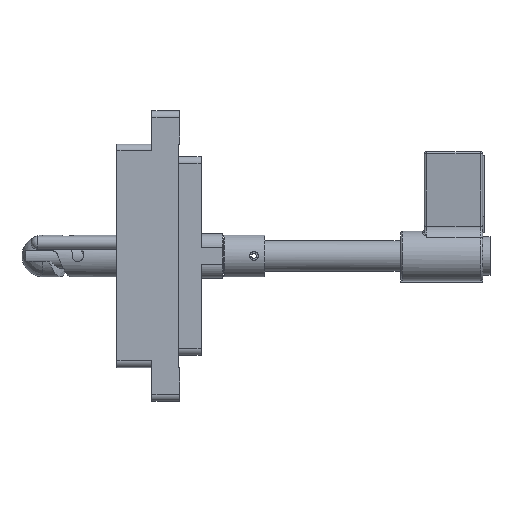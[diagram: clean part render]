
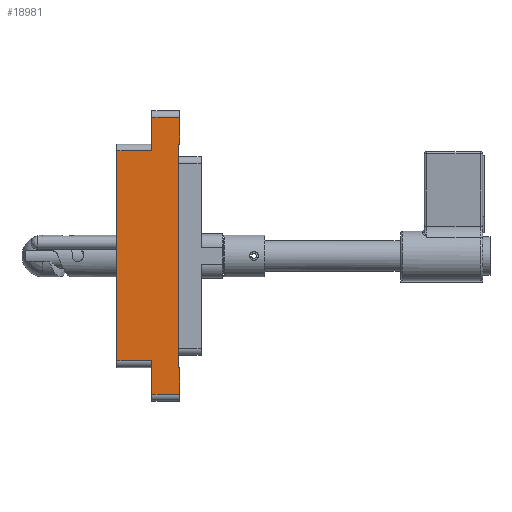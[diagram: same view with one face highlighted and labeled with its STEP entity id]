
A CAD part, top view. The second image highlights one B-rep face of the part: STEP entity #18981.
In plain terms, the highlighted planar face has unit normal (0, 0, 1).
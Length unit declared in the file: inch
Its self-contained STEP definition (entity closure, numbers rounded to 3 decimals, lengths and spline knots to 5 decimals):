
#8789=CARTESIAN_POINT('',(0.99999,0.299,0.128));
#8790=VERTEX_POINT('',#8789);
#8797=CARTESIAN_POINT('',(0.99999,0.05906,0.128));
#8798=VERTEX_POINT('',#8797);
#8799=CARTESIAN_POINT('',(0.99999,0.299,0.128));
#8800=DIRECTION('',(0.0,-1.0,0.0));
#8801=VECTOR('',#8800,0.23994);
#8802=LINE('',#8799,#8801);
#8803=EDGE_CURVE('',#8790,#8798,#8802,.T.);
#8926=CARTESIAN_POINT('',(0.99999,2.53294,0.128));
#8927=VERTEX_POINT('',#8926);
#8937=CARTESIAN_POINT('',(0.99999,2.293,0.128));
#8938=VERTEX_POINT('',#8937);
#8939=CARTESIAN_POINT('',(0.99999,2.53294,0.128));
#8940=DIRECTION('',(0.0,-1.0,0.0));
#8941=VECTOR('',#8940,0.23994);
#8942=LINE('',#8939,#8941);
#8943=EDGE_CURVE('',#8927,#8938,#8942,.T.);
#17777=CARTESIAN_POINT('',(0.43799,0.35806,0.128));
#17778=VERTEX_POINT('',#17777);
#17786=CARTESIAN_POINT('',(0.43799,2.23394,0.128));
#17787=VERTEX_POINT('',#17786);
#17788=CARTESIAN_POINT('',(0.43799,0.35806,0.128));
#17789=DIRECTION('',(0.0,1.0,0.0));
#17790=VECTOR('',#17789,1.87589);
#17791=LINE('',#17788,#17790);
#17792=EDGE_CURVE('',#17778,#17787,#17791,.T.);
#18823=CARTESIAN_POINT('',(0.74999,0.05906,0.128));
#18824=VERTEX_POINT('',#18823);
#18834=CARTESIAN_POINT('',(0.99999,0.05906,0.128));
#18835=DIRECTION('',(-1.0,0.0,0.0));
#18836=VECTOR('',#18835,0.25);
#18837=LINE('',#18834,#18836);
#18838=EDGE_CURVE('',#8798,#18824,#18837,.T.);
#18851=CARTESIAN_POINT('',(0.74999,0.35806,0.128));
#18852=VERTEX_POINT('',#18851);
#18853=CARTESIAN_POINT('',(0.74999,0.05906,0.128));
#18854=DIRECTION('',(0.0,1.0,0.0));
#18855=VECTOR('',#18854,0.299);
#18856=LINE('',#18853,#18855);
#18857=EDGE_CURVE('',#18824,#18852,#18856,.T.);
#18919=CARTESIAN_POINT('',(0.74506,1.296,0.128));
#18920=DIRECTION('',(0.0,0.0,-1.0));
#18921=DIRECTION('',(-1.0,0.0,0.0));
#18922=AXIS2_PLACEMENT_3D('',#18919,#18920,#18921);
#18923=PLANE('',#18922);
#18924=ORIENTED_EDGE('',*,*,#18838,.F.);
#18925=ORIENTED_EDGE('',*,*,#8803,.F.);
#18926=CARTESIAN_POINT('',(0.98523,0.299,0.128));
#18927=VERTEX_POINT('',#18926);
#18928=CARTESIAN_POINT('',(0.98523,0.299,0.128));
#18929=DIRECTION('',(1.0,0.0,0.0));
#18930=VECTOR('',#18929,0.01476);
#18931=LINE('',#18928,#18930);
#18932=EDGE_CURVE('',#18927,#8790,#18931,.T.);
#18933=ORIENTED_EDGE('',*,*,#18932,.F.);
#18934=CARTESIAN_POINT('',(0.98523,2.293,0.128));
#18935=VERTEX_POINT('',#18934);
#18936=CARTESIAN_POINT('',(0.98523,2.293,0.128));
#18937=DIRECTION('',(0.0,-1.0,0.0));
#18938=VECTOR('',#18937,1.994);
#18939=LINE('',#18936,#18938);
#18940=EDGE_CURVE('',#18935,#18927,#18939,.T.);
#18941=ORIENTED_EDGE('',*,*,#18940,.F.);
#18942=CARTESIAN_POINT('',(0.99999,2.293,0.128));
#18943=DIRECTION('',(-1.0,0.0,0.0));
#18944=VECTOR('',#18943,0.01476);
#18945=LINE('',#18942,#18944);
#18946=EDGE_CURVE('',#8938,#18935,#18945,.T.);
#18947=ORIENTED_EDGE('',*,*,#18946,.F.);
#18948=ORIENTED_EDGE('',*,*,#8943,.F.);
#18949=CARTESIAN_POINT('',(0.74999,2.53294,0.128));
#18950=VERTEX_POINT('',#18949);
#18951=CARTESIAN_POINT('',(0.74999,2.53294,0.128));
#18952=DIRECTION('',(1.0,0.0,0.0));
#18953=VECTOR('',#18952,0.25);
#18954=LINE('',#18951,#18953);
#18955=EDGE_CURVE('',#18950,#8927,#18954,.T.);
#18956=ORIENTED_EDGE('',*,*,#18955,.F.);
#18957=CARTESIAN_POINT('',(0.74999,2.23394,0.128));
#18958=VERTEX_POINT('',#18957);
#18959=CARTESIAN_POINT('',(0.74999,2.23394,0.128));
#18960=DIRECTION('',(0.0,1.0,0.0));
#18961=VECTOR('',#18960,0.299);
#18962=LINE('',#18959,#18961);
#18963=EDGE_CURVE('',#18958,#18950,#18962,.T.);
#18964=ORIENTED_EDGE('',*,*,#18963,.F.);
#18965=CARTESIAN_POINT('',(0.43799,2.23394,0.128));
#18966=DIRECTION('',(1.0,0.0,0.0));
#18967=VECTOR('',#18966,0.312);
#18968=LINE('',#18965,#18967);
#18969=EDGE_CURVE('',#17787,#18958,#18968,.T.);
#18970=ORIENTED_EDGE('',*,*,#18969,.F.);
#18971=ORIENTED_EDGE('',*,*,#17792,.F.);
#18972=CARTESIAN_POINT('',(0.74999,0.35806,0.128));
#18973=DIRECTION('',(-1.0,0.0,0.0));
#18974=VECTOR('',#18973,0.312);
#18975=LINE('',#18972,#18974);
#18976=EDGE_CURVE('',#18852,#17778,#18975,.T.);
#18977=ORIENTED_EDGE('',*,*,#18976,.F.);
#18978=ORIENTED_EDGE('',*,*,#18857,.F.);
#18979=EDGE_LOOP('',(#18924,#18925,#18933,#18941,#18947,#18948,#18956,#18964,#18970,#18971,#18977,#18978));
#18980=FACE_OUTER_BOUND('',#18979,.T.);
#18981=ADVANCED_FACE('',(#18980),#18923,.F.);
